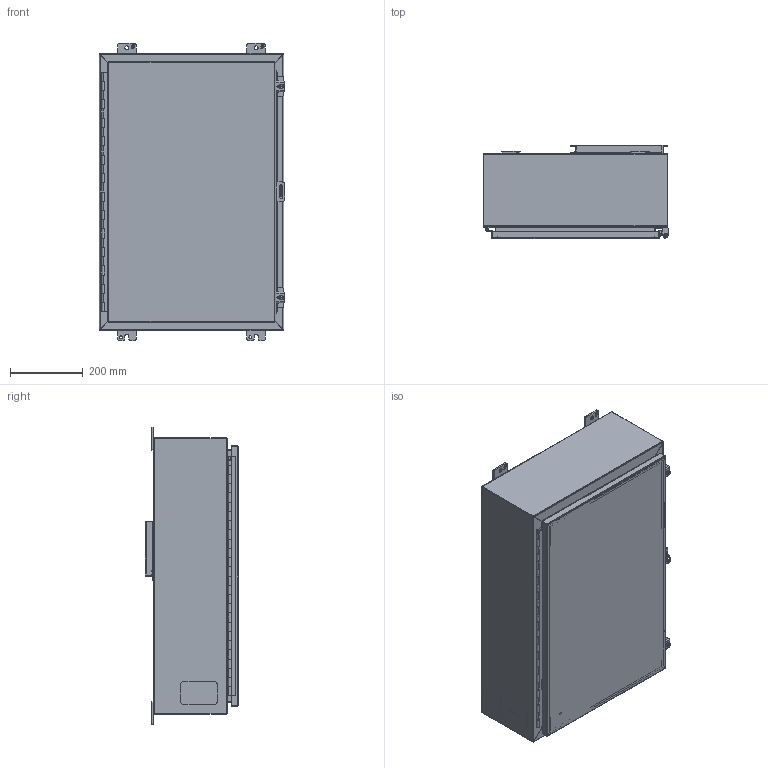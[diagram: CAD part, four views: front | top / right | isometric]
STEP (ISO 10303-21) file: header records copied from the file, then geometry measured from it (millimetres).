
FILE_DESCRIPTION(/* description */ ('Unknown'),/* implementation_level */ '2;1');
FILE_NAME(/* name */ '1418F8LP',/* time_stamp */ '2026-02-20T16:31:07-05:00',/* author */ ('Unknown'),/* organization */ ('Unknown'),/* preprocessor_version */ 'ST-DEVELOPER v18.104',/* originating_system */ 'Solid Edge',/* authorisation */ 'Unknown');
FILE_SCHEMA (('AUTOMOTIVE_DESIGN {1 0 10303 214 3 1 1}'));
Length unit declared in the file: millimetre
Products named in the file (30): 1418F8LP; STD26094; STD21878; COM42780; KIT90518; WAF25059; NTS166105; LAB30005; COM40153-1; HNG10620-26B; COM71780-16; COM40153-2; HNG10620-26C; PNT11078; COM70219_oa_0; COM48442; FET07710; AKT90223; SPR20265; SCC19011; WAF25035; COM42667; HNG10620-26P; BUL10020; QLB30109; PKT99; KIT90256; NTS165305; NTS16535
Assembly tree (40 placements, depth 3):
  1418F8LP
    STD26094  x4
    STD21878
    COM42780  x2
    KIT90518
      WAF25059
      NTS166105
      LAB30005
    COM40153-1
    HNG10620-26B
    COM71780-16
      COM40153-2
      HNG10620-26C
      COM71780-16
      STD21878
      PNT11078
      COM70219_oa_0
    COM48442
    FET07710  x4
    AKT90223  x2
      SPR20265
      SCC19011
      WAF25035
      COM42667
    HNG10620-26P
    BUL10020
    QLB30109
    PKT99
    KIT90256
      LAB30005
      NTS165305
      NTS16535
    PNT11078
Bounding box: 511.18 x 257.18 x 819.15 mm (x, y, z)
Volume: 2996451.9 mm3; surface area: 3218069.8 mm2
Topology: 34 solids, 35 shells, 1217 faces, 3111 edges, 1998 vertices
Faces by surface type: plane 810, cylinder 310, bspline 49, cone 26, torus 20, sphere 2
Full cylindrical faces by diameter (mm): 3.175 x1, 4.763 x1, 4.976 x1, 5.41 x2, 6.198 x2, 6.35 x3, 6.731 x2, 7.137 x2, 7.805 x1, 7.938 x4, 8.382 x4, 9.525 x4, 9.906 x2, 11.113 x4, 11.303 x1, 12.7 x2, 16.51 x4, 25.4 x1, 88.9 x1
Entity records: 30745 total; most frequent: CARTESIAN_POINT 8425, ORIENTED_EDGE 4472, DIRECTION 4227, EDGE_CURVE 2236, LINE 1533, VECTOR 1533, VERTEX_POINT 1441, AXIS2_PLACEMENT_3D 1347
